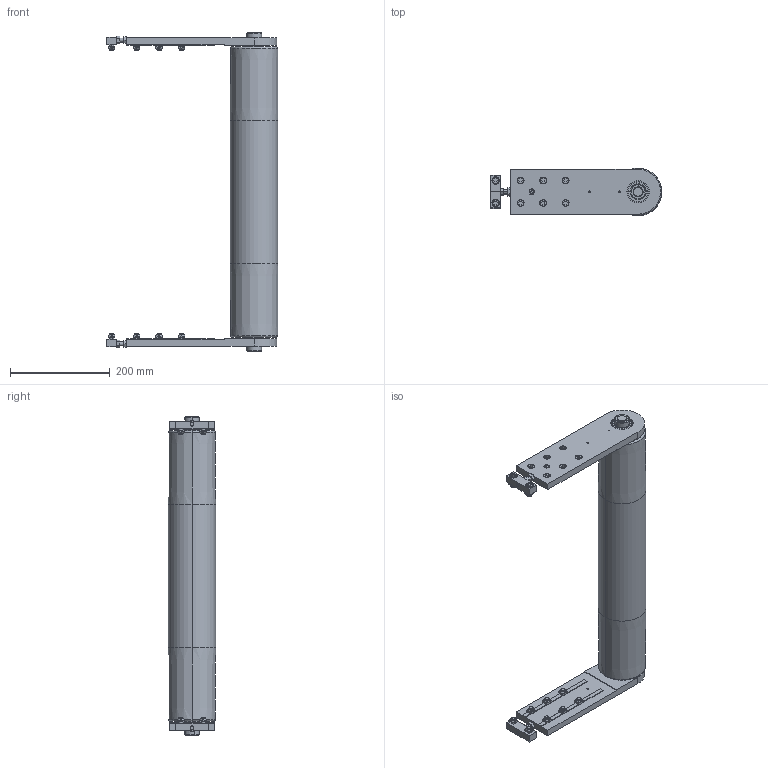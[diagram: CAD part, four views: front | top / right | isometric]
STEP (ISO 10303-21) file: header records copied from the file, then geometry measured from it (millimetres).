
FILE_DESCRIPTION (( 'STEP AP203' ), '1' );
FILE_NAME ('084.095.KI.555.STEP', '2016-01-11T16:21:59', ( '' ), ( '' ), 'SwSTEP 2.0', 'SolidWorks 2016', '' );
FILE_SCHEMA (( 'CONFIG_CONTROL_DESIGN' ));
Length unit declared in the file: millimetre
Products named in the file (1): 084.095.KI.555
Bounding box: 343.5 x 95 x 640 mm (x, y, z)
Volume: 1987853.6 mm3; surface area: 824731 mm2
Topology: 51 solids, 53 shells, 1138 faces, 2804 edges, 1830 vertices
Faces by surface type: plane 563, cylinder 347, torus 108, cone 64, bspline 48, sphere 8
Entity records: 35217 total; most frequent: CARTESIAN_POINT 7601, DIRECTION 5886, ORIENTED_EDGE 5572, EDGE_CURVE 2786, AXIS2_PLACEMENT_3D 2233, VERTEX_POINT 1820, VECTOR 1420, LINE 1420
